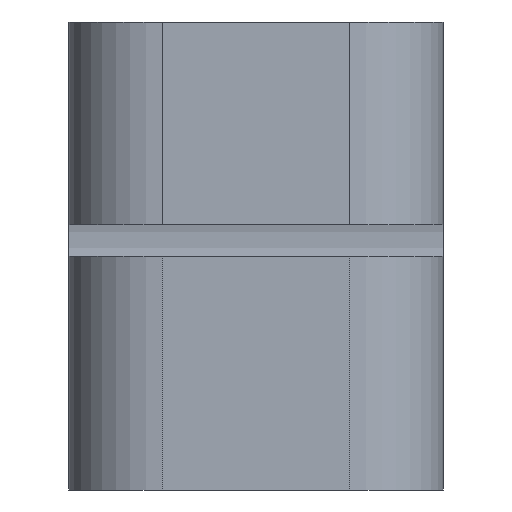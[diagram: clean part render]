
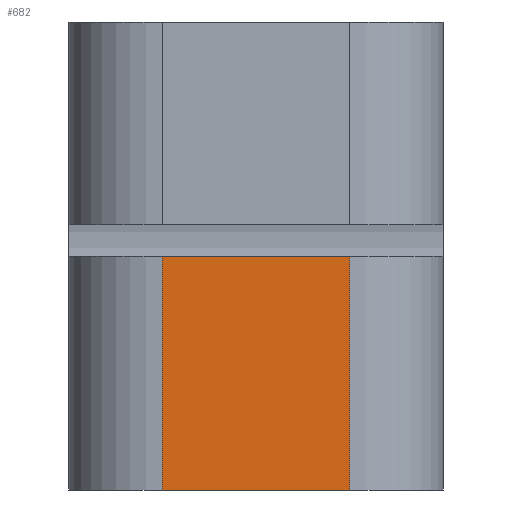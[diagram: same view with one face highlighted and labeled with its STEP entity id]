
A CAD part, left-side view. The second image highlights one B-rep face of the part: STEP entity #682.
In plain terms, the highlighted planar face has unit normal (-1, 0, 0).
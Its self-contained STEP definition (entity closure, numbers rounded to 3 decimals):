
#44=PLANE('',#779);
#81=FACE_OUTER_BOUND('',#130,.T.);
#130=EDGE_LOOP('',(#619,#620,#621,#622));
#154=LINE('',#1065,#207);
#166=LINE('',#1131,#219);
#167=LINE('',#1135,#220);
#169=LINE('',#1141,#222);
#207=VECTOR('',#845,10.);
#219=VECTOR('',#897,10.);
#220=VECTOR('',#902,10.);
#222=VECTOR('',#910,10.);
#308=VERTEX_POINT('',#1062);
#309=VERTEX_POINT('',#1064);
#327=VERTEX_POINT('',#1130);
#328=VERTEX_POINT('',#1134);
#378=EDGE_CURVE('',#308,#309,#154,.T.);
#405=EDGE_CURVE('',#309,#327,#166,.T.);
#407=EDGE_CURVE('',#328,#327,#167,.T.);
#411=EDGE_CURVE('',#328,#308,#169,.T.);
#619=ORIENTED_EDGE('',*,*,#405,.F.);
#620=ORIENTED_EDGE('',*,*,#378,.F.);
#621=ORIENTED_EDGE('',*,*,#411,.F.);
#622=ORIENTED_EDGE('',*,*,#407,.T.);
#682=ADVANCED_FACE('',(#81),#44,.T.);
#779=AXIS2_PLACEMENT_3D('',#1199,#986,#987);
#845=DIRECTION('',(0.,1.,0.));
#897=DIRECTION('',(0.,0.,1.));
#902=DIRECTION('',(0.,1.,0.));
#910=DIRECTION('',(0.,0.,-1.));
#986=DIRECTION('center_axis',(-1.,0.,0.));
#987=DIRECTION('ref_axis',(0.,0.,1.));
#1062=CARTESIAN_POINT('',(-33.,-3.,0.));
#1064=CARTESIAN_POINT('',(-33.,3.,0.));
#1065=CARTESIAN_POINT('',(-33.,0.,0.));
#1130=CARTESIAN_POINT('',(-33.,3.,7.5));
#1131=CARTESIAN_POINT('',(-33.,3.,3.75));
#1134=CARTESIAN_POINT('',(-33.,-3.,7.5));
#1135=CARTESIAN_POINT('',(-33.,0.,7.5));
#1141=CARTESIAN_POINT('',(-33.,-3.,3.75));
#1199=CARTESIAN_POINT('Origin',(-33.,0.,0.));
